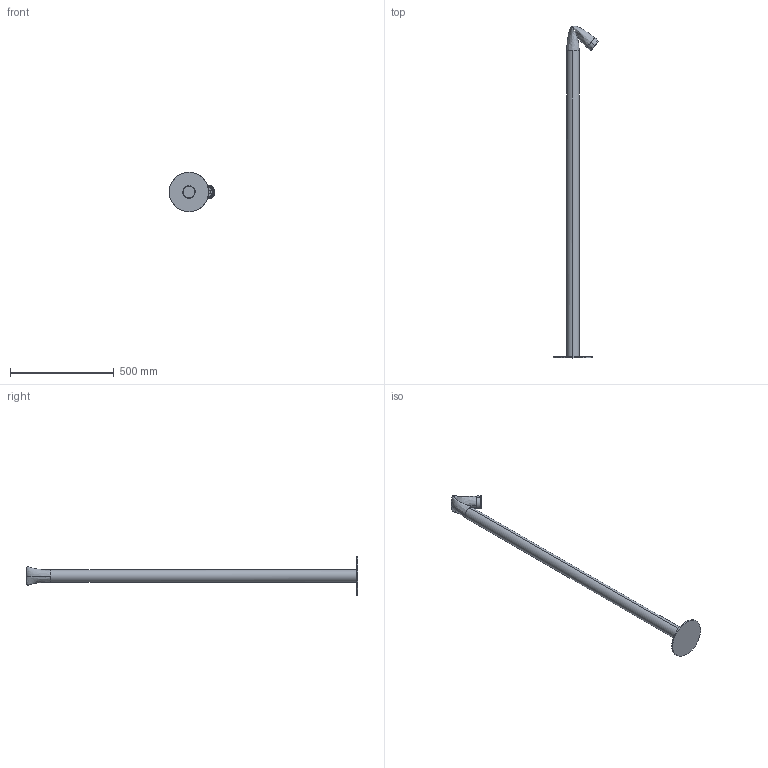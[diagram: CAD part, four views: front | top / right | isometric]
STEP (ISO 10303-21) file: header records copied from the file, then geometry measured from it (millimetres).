
FILE_DESCRIPTION (( 'STEP AP203' ), '1' );
FILE_NAME ('PTBENDER160.STEP', '2025-06-20T08:51:16', ( '' ), ( '' ), 'SwSTEP 2.0', 'SolidWorks 2024', '' );
FILE_SCHEMA (( 'CONFIG_CONTROL_DESIGN' ));
Length unit declared in the file: millimetre
Products named in the file (1): PTBENDER160
Bounding box: 219.23 x 1599.99 x 190 mm (x, y, z)
Surface area: 392601.5 mm2 (no closed solid volume)
Topology: 0 solids, 7 shells, 387 faces, 983 edges, 605 vertices
Faces by surface type: bspline 180, plane 57, cylinder 54, sphere 34, cone 32, torus 30
Entity records: 28886 total; most frequent: CARTESIAN_POINT 22117, ORIENTED_EDGE 1934, EDGE_CURVE 979, B_SPLINE_CURVE_WITH_KNOTS 970, VERTEX_POINT 605, DIRECTION 424, EDGE_LOOP 393, ADVANCED_FACE 387
